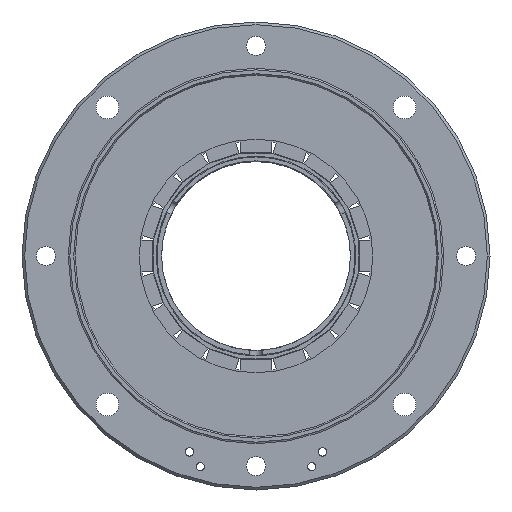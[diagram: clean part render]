
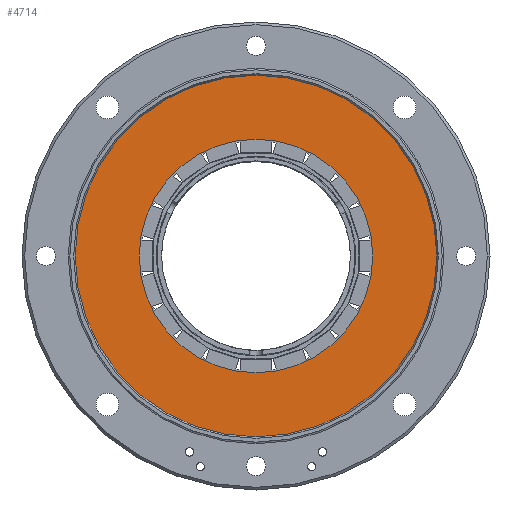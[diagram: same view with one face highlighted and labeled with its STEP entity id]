
A CAD part, left-side view. The second image highlights one B-rep face of the part: STEP entity #4714.
In plain terms, the highlighted planar face has unit normal (-1, 0, 0).
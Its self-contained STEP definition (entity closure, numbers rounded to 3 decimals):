
#767=CARTESIAN_POINT('',(0.5,0.,0.));
#768=DIRECTION('',(1.,0.,0.));
#769=DIRECTION('',(0.,1.,0.));
#770=AXIS2_PLACEMENT_3D('',#767,#768,#769);
#820=CARTESIAN_POINT('',(0.5,0.,0.));
#821=DIRECTION('',(-1.,0.,0.));
#822=DIRECTION('',(0.,1.,0.));
#823=AXIS2_PLACEMENT_3D('',#820,#821,#822);
#1769=CARTESIAN_POINT('',(0.5,0.,0.));
#1770=DIRECTION('',(1.,0.,0.));
#1771=DIRECTION('',(0.,1.,0.));
#1772=AXIS2_PLACEMENT_3D('',#1769,#1770,#1771);
#1784=CARTESIAN_POINT('',(0.5,0.,0.));
#1785=DIRECTION('',(1.,0.,0.));
#1786=DIRECTION('',(0.,-1.,0.));
#1787=AXIS2_PLACEMENT_3D('',#1784,#1785,#1786);
#3151=CARTESIAN_POINT('',(0.5,21.95,0.));
#3152=CARTESIAN_POINT('',(0.5,-21.95,0.));
#3153=VERTEX_POINT('',#3151);
#3154=VERTEX_POINT('',#3152);
#3155=CARTESIAN_POINT('',(0.5,34.,0.));
#3156=CARTESIAN_POINT('',(0.5,-34.,0.));
#3157=VERTEX_POINT('',#3155);
#3158=VERTEX_POINT('',#3156);
#4700=CARTESIAN_POINT('',(0.5,0.,0.));
#4701=DIRECTION('',(1.,0.,0.));
#4702=DIRECTION('',(0.,-1.,0.));
#4703=AXIS2_PLACEMENT_3D('',#4700,#4701,#4702);
#4704=PLANE('',#4703);
#4705=ORIENTED_EDGE('',*,*,#4690,.T.);
#4707=ORIENTED_EDGE('',*,*,#4706,.T.);
#4708=EDGE_LOOP('',(#4705,#4707));
#4709=FACE_OUTER_BOUND('',#4708,.F.);
#4710=ORIENTED_EDGE('',*,*,#3889,.F.);
#4711=ORIENTED_EDGE('',*,*,#3917,.T.);
#4712=EDGE_LOOP('',(#4710,#4711));
#4713=FACE_BOUND('',#4712,.F.);
#4714=ADVANCED_FACE('',(#4709,#4713),#4704,.F.);
#771=CIRCLE('',#770,21.95);
#824=CIRCLE('',#823,21.95);
#1773=CIRCLE('',#1772,34.);
#1788=CIRCLE('',#1787,34.);
#3889=EDGE_CURVE('',#3153,#3154,#771,.T.);
#3917=EDGE_CURVE('',#3153,#3154,#824,.T.);
#4690=EDGE_CURVE('',#3157,#3158,#1773,.T.);
#4706=EDGE_CURVE('',#3158,#3157,#1788,.T.);
